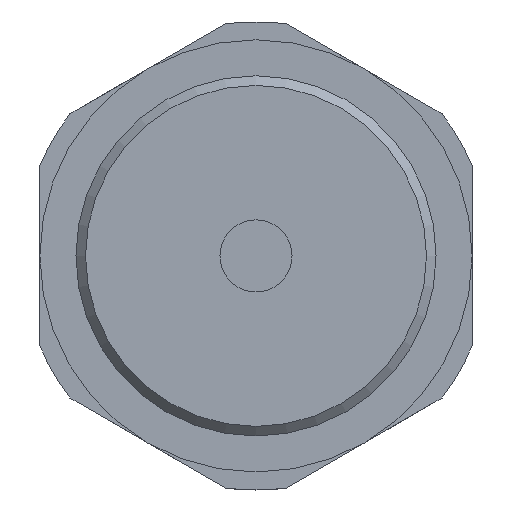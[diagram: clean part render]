
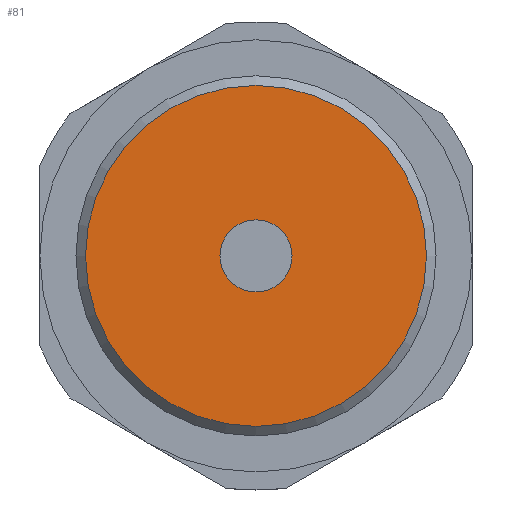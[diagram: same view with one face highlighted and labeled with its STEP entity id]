
A CAD part, front view. The second image highlights one B-rep face of the part: STEP entity #81.
In plain terms, the highlighted planar face has unit normal (0, -1, 0).
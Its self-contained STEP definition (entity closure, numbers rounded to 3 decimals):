
#81 = ADVANCED_FACE( '', ( #122, #123 ), #124, .F. );
#122 = FACE_BOUND( '', #207, .T. );
#123 = FACE_OUTER_BOUND( '', #208, .T. );
#124 = PLANE( '', #209 );
#207 = EDGE_LOOP( '', ( #316 ) );
#208 = EDGE_LOOP( '', ( #317 ) );
#209 = AXIS2_PLACEMENT_3D( '', #318, #319, #320 );
#316 = ORIENTED_EDGE( '', *, *, #504, .F. );
#317 = ORIENTED_EDGE( '', *, *, #506, .T. );
#318 = CARTESIAN_POINT( '', ( 14.2, -8., 0. ) );
#319 = DIRECTION( '', ( 0., 1., 0. ) );
#320 = DIRECTION( '', ( 0., 0., 1. ) );
#504 = EDGE_CURVE( '', #575, #575, #576, .T. );
#506 = EDGE_CURVE( '', #579, #579, #580, .T. );
#575 = VERTEX_POINT( '', #718 );
#576 = CIRCLE( '', #719, 3. );
#579 = VERTEX_POINT( '', #722 );
#580 = CIRCLE( '', #723, 14.2 );
#718 = CARTESIAN_POINT( '', ( 0., -8., -3. ) );
#719 = AXIS2_PLACEMENT_3D( '', #819, #820, #821 );
#722 = CARTESIAN_POINT( '', ( 0., -8., -14.2 ) );
#723 = AXIS2_PLACEMENT_3D( '', #825, #826, #827 );
#819 = CARTESIAN_POINT( '', ( 0., -8., 0. ) );
#820 = DIRECTION( '', ( 0., -1., 0. ) );
#821 = DIRECTION( '', ( 0., 0., -1. ) );
#825 = CARTESIAN_POINT( '', ( 0., -8., 0. ) );
#826 = DIRECTION( '', ( 0., -1., 0. ) );
#827 = DIRECTION( '', ( 0., 0., -1. ) );
